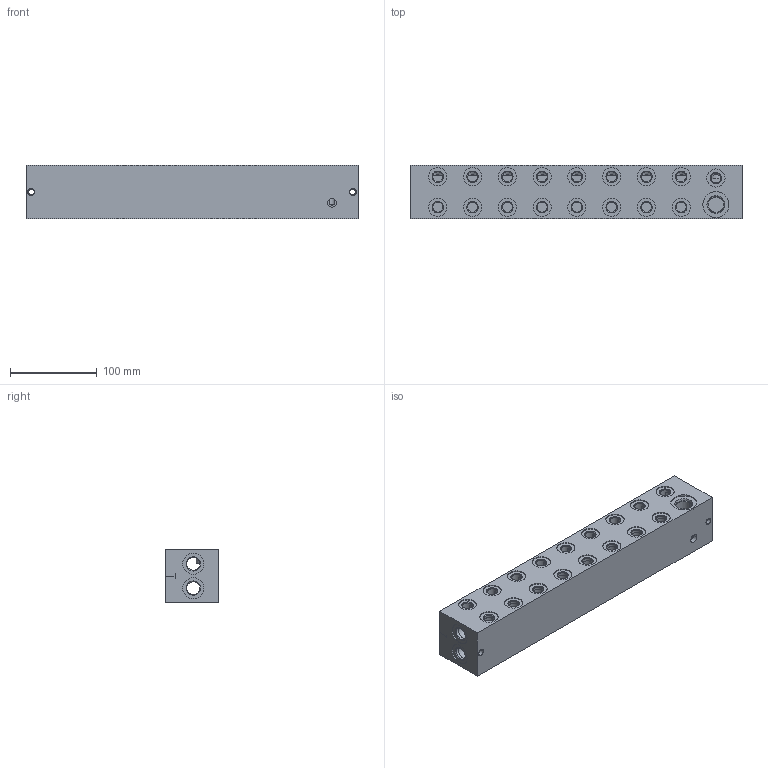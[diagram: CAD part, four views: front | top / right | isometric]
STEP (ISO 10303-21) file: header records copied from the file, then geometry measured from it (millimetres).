
FILE_DESCRIPTION((''),'2;1');
FILE_NAME('760_7080','2015-11-27T',('Ahcz.brigadnik05'),(''),'PRO/ENGINEER BY PARAMETRIC TECHNOLOGY CORPORATION, 2015110','PRO/ENGINEER BY PARAMETRIC TECHNOLOGY CORPORATION, 2015110','');
FILE_SCHEMA(('AUTOMOTIVE_DESIGN { 1 0 10303 214 1 1 1 1 }'));
Length unit declared in the file: millimetre
Products named in the file (1): 760_7080
Bounding box: 382 x 61 x 61 mm (x, y, z)
Volume: 523207.6 mm3; surface area: 208315.7 mm2
Topology: 1 solids, 62 shells, 547 faces, 2587 edges, 2454 vertices
Faces by surface type: cylinder 374, plane 102, cone 71
Entity records: 28799 total; most frequent: CARTESIAN_POINT 6145, DIRECTION 4407, ORIENTED_EDGE 2810, VECTOR 1579, LINE 1579, EDGE_CURVE 1527, AXIS2_PLACEMENT_3D 1414, TRIMMED_CURVE 1055
